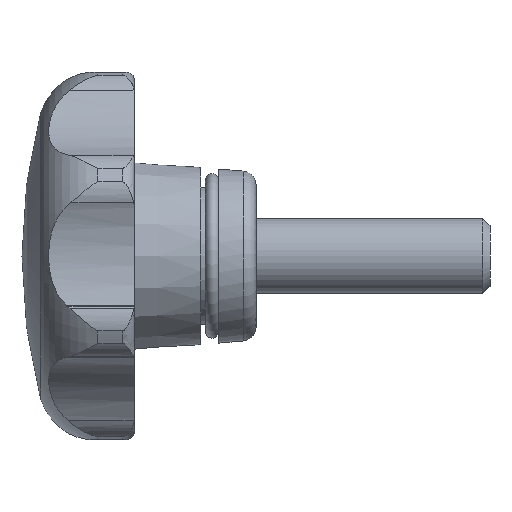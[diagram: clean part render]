
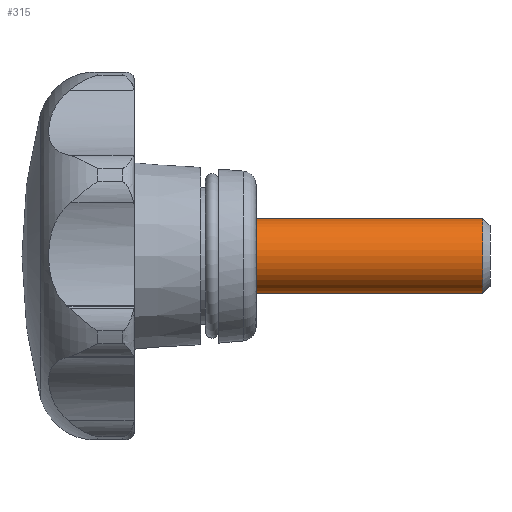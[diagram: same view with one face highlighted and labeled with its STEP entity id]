
A CAD part, left-side view. The second image highlights one B-rep face of the part: STEP entity #315.
In plain terms, the highlighted cylindrical face has radius 4 mm (diameter 8 mm), a full revolution.
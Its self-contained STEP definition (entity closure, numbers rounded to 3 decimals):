
#315 = ADVANCED_FACE( '', ( #688, #689 ), #690, .T. );
#688 = FACE_OUTER_BOUND( '', #1112, .T. );
#689 = FACE_OUTER_BOUND( '', #1113, .T. );
#690 = CYLINDRICAL_SURFACE( '', #1114, 4. );
#1112 = EDGE_LOOP( '', ( #2391 ) );
#1113 = EDGE_LOOP( '', ( #2392 ) );
#1114 = AXIS2_PLACEMENT_3D( '', #2393, #2394, #2395 );
#2391 = ORIENTED_EDGE( '', *, *, #3065, .F. );
#2392 = ORIENTED_EDGE( '', *, *, #2968, .T. );
#2393 = CARTESIAN_POINT( '', ( 0., -25., 0. ) );
#2394 = DIRECTION( '', ( 0., 1., 0. ) );
#2395 = DIRECTION( '', ( 0., 0., -1. ) );
#2968 = EDGE_CURVE( '', #3671, #3671, #3672, .T. );
#3065 = EDGE_CURVE( '', #3790, #3790, #3791, .T. );
#3671 = VERTEX_POINT( '', #5474 );
#3672 = CIRCLE( '', #5475, 4. );
#3790 = VERTEX_POINT( '', #5667 );
#3791 = CIRCLE( '', #5668, 4. );
#5474 = CARTESIAN_POINT( '', ( 0., 0., -4. ) );
#5475 = AXIS2_PLACEMENT_3D( '', #6260, #6261, #6262 );
#5667 = CARTESIAN_POINT( '', ( 0., -24.233, -4. ) );
#5668 = AXIS2_PLACEMENT_3D( '', #6464, #6465, #6466 );
#6260 = CARTESIAN_POINT( '', ( 0., 0., 0. ) );
#6261 = DIRECTION( '', ( 0., -1., 0. ) );
#6262 = DIRECTION( '', ( 0., 0., -1. ) );
#6464 = CARTESIAN_POINT( '', ( 0., -24.233, 0. ) );
#6465 = DIRECTION( '', ( 0., -1., 0. ) );
#6466 = DIRECTION( '', ( 0., 0., -1. ) );
